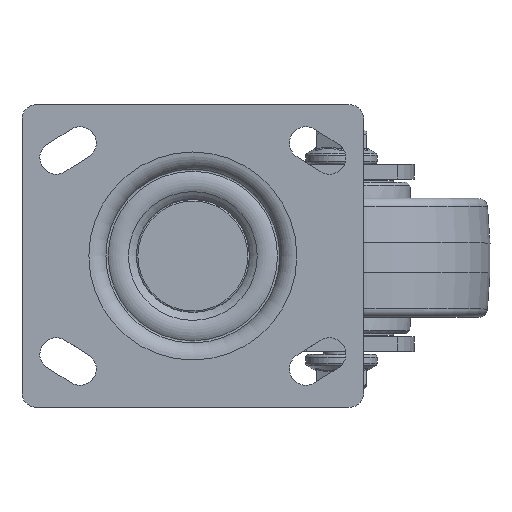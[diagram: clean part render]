
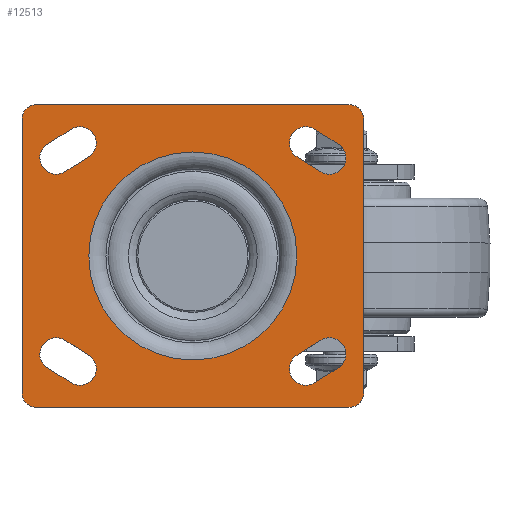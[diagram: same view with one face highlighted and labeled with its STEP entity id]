
A CAD part, top view. The second image highlights one B-rep face of the part: STEP entity #12513.
In plain terms, the highlighted planar face has unit normal (0, 0, 1).
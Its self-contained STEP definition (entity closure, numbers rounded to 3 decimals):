
#11257=CARTESIAN_POINT('',(-96.085,543.205,6.899));
#11258=VERTEX_POINT('',#11257);
#11259=CARTESIAN_POINT('',(-131.085,543.205,6.899));
#11260=DIRECTION('',(0.0,0.0,-1.0));
#11261=DIRECTION('',(1.0,0.0,0.0));
#11262=AXIS2_PLACEMENT_3D('',#11259,#11260,#11261);
#11263=CIRCLE('',#11262,35.);
#11264=EDGE_CURVE('',#11258,#11258,#11263,.T.);
#11636=CARTESIAN_POINT('',(-96.,576.541,6.899));
#11637=VERTEX_POINT('',#11636);
#11644=CARTESIAN_POINT('',(-88.,571.541,6.899));
#11645=VERTEX_POINT('',#11644);
#11646=CARTESIAN_POINT('',(-88.,571.541,6.899));
#11647=DIRECTION('',(-0.848,0.53,0.0));
#11648=VECTOR('',#11647,9.434);
#11649=LINE('',#11646,#11648);
#11650=EDGE_CURVE('',#11645,#11637,#11649,.T.);
#11676=CARTESIAN_POINT('',(-82.17,580.869,6.899));
#11677=VERTEX_POINT('',#11676);
#11678=CARTESIAN_POINT('',(-85.085,576.205,6.899));
#11679=DIRECTION('',(0.0,0.0,-1.0));
#11680=DIRECTION('',(1.0,0.0,0.0));
#11681=AXIS2_PLACEMENT_3D('',#11678,#11679,#11680);
#11682=CIRCLE('',#11681,5.5);
#11683=EDGE_CURVE('',#11677,#11645,#11682,.T.);
#11708=CARTESIAN_POINT('',(-90.17,585.869,6.899));
#11709=VERTEX_POINT('',#11708);
#11710=CARTESIAN_POINT('',(-90.17,585.869,6.899));
#11711=DIRECTION('',(0.848,-0.53,0.0));
#11712=VECTOR('',#11711,9.434);
#11713=LINE('',#11710,#11712);
#11714=EDGE_CURVE('',#11709,#11677,#11713,.T.);
#11738=CARTESIAN_POINT('',(-93.085,581.205,6.899));
#11739=DIRECTION('',(0.0,0.0,-1.0));
#11740=DIRECTION('',(1.0,0.0,0.0));
#11741=AXIS2_PLACEMENT_3D('',#11738,#11739,#11740);
#11742=CIRCLE('',#11741,5.5);
#11743=EDGE_CURVE('',#11637,#11709,#11742,.T.);
#11765=CARTESIAN_POINT('',(-73.585,497.205,6.899));
#11766=VERTEX_POINT('',#11765);
#11773=CARTESIAN_POINT('',(-78.585,492.205,6.899));
#11774=VERTEX_POINT('',#11773);
#11775=CARTESIAN_POINT('',(-78.585,497.205,6.899));
#11776=DIRECTION('',(0.0,0.0,1.0));
#11777=DIRECTION('',(1.0,0.0,0.0));
#11778=AXIS2_PLACEMENT_3D('',#11775,#11776,#11777);
#11779=CIRCLE('',#11778,5.0);
#11780=EDGE_CURVE('',#11774,#11766,#11779,.T.);
#11805=CARTESIAN_POINT('',(-183.585,492.205,6.899));
#11806=VERTEX_POINT('',#11805);
#11807=CARTESIAN_POINT('',(-183.585,492.205,6.899));
#11808=DIRECTION('',(1.0,0.0,0.0));
#11809=VECTOR('',#11808,105.0);
#11810=LINE('',#11807,#11809);
#11811=EDGE_CURVE('',#11806,#11774,#11810,.T.);
#11837=CARTESIAN_POINT('',(-188.585,497.205,6.899));
#11838=VERTEX_POINT('',#11837);
#11839=CARTESIAN_POINT('',(-183.585,497.205,6.899));
#11840=DIRECTION('',(0.0,0.0,1.0));
#11841=DIRECTION('',(1.0,0.0,0.0));
#11842=AXIS2_PLACEMENT_3D('',#11839,#11840,#11841);
#11843=CIRCLE('',#11842,5.0);
#11844=EDGE_CURVE('',#11838,#11806,#11843,.T.);
#11869=CARTESIAN_POINT('',(-188.585,589.205,6.899));
#11870=VERTEX_POINT('',#11869);
#11871=CARTESIAN_POINT('',(-188.585,589.205,6.899));
#11872=DIRECTION('',(0.0,-1.0,0.0));
#11873=VECTOR('',#11872,92.);
#11874=LINE('',#11871,#11873);
#11875=EDGE_CURVE('',#11870,#11838,#11874,.T.);
#11901=CARTESIAN_POINT('',(-183.585,594.205,6.899));
#11902=VERTEX_POINT('',#11901);
#11903=CARTESIAN_POINT('',(-183.585,589.205,6.899));
#11904=DIRECTION('',(0.0,0.0,1.0));
#11905=DIRECTION('',(1.0,0.0,0.0));
#11906=AXIS2_PLACEMENT_3D('',#11903,#11904,#11905);
#11907=CIRCLE('',#11906,5.0);
#11908=EDGE_CURVE('',#11902,#11870,#11907,.T.);
#11933=CARTESIAN_POINT('',(-78.585,594.205,6.899));
#11934=VERTEX_POINT('',#11933);
#11935=CARTESIAN_POINT('',(-78.585,594.205,6.899));
#11936=DIRECTION('',(-1.0,0.0,0.0));
#11937=VECTOR('',#11936,105.0);
#11938=LINE('',#11935,#11937);
#11939=EDGE_CURVE('',#11934,#11902,#11938,.T.);
#11965=CARTESIAN_POINT('',(-73.585,589.205,6.899));
#11966=VERTEX_POINT('',#11965);
#11967=CARTESIAN_POINT('',(-78.585,589.205,6.899));
#11968=DIRECTION('',(0.0,0.0,1.0));
#11969=DIRECTION('',(1.0,0.0,0.0));
#11970=AXIS2_PLACEMENT_3D('',#11967,#11968,#11969);
#11971=CIRCLE('',#11970,5.0);
#11972=EDGE_CURVE('',#11966,#11934,#11971,.T.);
#11995=CARTESIAN_POINT('',(-73.585,497.205,6.899));
#11996=DIRECTION('',(0.0,1.0,0.0));
#11997=VECTOR('',#11996,92.);
#11998=LINE('',#11995,#11997);
#11999=EDGE_CURVE('',#11766,#11966,#11998,.T.);
#12020=CARTESIAN_POINT('',(-166.17,509.869,6.899));
#12021=VERTEX_POINT('',#12020);
#12028=CARTESIAN_POINT('',(-174.17,514.869,6.899));
#12029=VERTEX_POINT('',#12028);
#12030=CARTESIAN_POINT('',(-174.17,514.869,6.899));
#12031=DIRECTION('',(0.848,-0.53,0.0));
#12032=VECTOR('',#12031,9.434);
#12033=LINE('',#12030,#12032);
#12034=EDGE_CURVE('',#12029,#12021,#12033,.T.);
#12060=CARTESIAN_POINT('',(-180.,505.541,6.899));
#12061=VERTEX_POINT('',#12060);
#12062=CARTESIAN_POINT('',(-177.085,510.205,6.899));
#12063=DIRECTION('',(0.0,0.0,-1.0));
#12064=DIRECTION('',(1.0,0.0,0.0));
#12065=AXIS2_PLACEMENT_3D('',#12062,#12063,#12064);
#12066=CIRCLE('',#12065,5.5);
#12067=EDGE_CURVE('',#12061,#12029,#12066,.T.);
#12092=CARTESIAN_POINT('',(-172.,500.541,6.899));
#12093=VERTEX_POINT('',#12092);
#12094=CARTESIAN_POINT('',(-172.,500.541,6.899));
#12095=DIRECTION('',(-0.848,0.53,0.0));
#12096=VECTOR('',#12095,9.434);
#12097=LINE('',#12094,#12096);
#12098=EDGE_CURVE('',#12093,#12061,#12097,.T.);
#12122=CARTESIAN_POINT('',(-169.085,505.205,6.899));
#12123=DIRECTION('',(0.0,0.0,-1.0));
#12124=DIRECTION('',(1.0,0.0,0.0));
#12125=AXIS2_PLACEMENT_3D('',#12122,#12123,#12124);
#12126=CIRCLE('',#12125,5.5);
#12127=EDGE_CURVE('',#12021,#12093,#12126,.T.);
#12148=CARTESIAN_POINT('',(-172.,585.869,6.899));
#12149=VERTEX_POINT('',#12148);
#12156=CARTESIAN_POINT('',(-180.,580.869,6.899));
#12157=VERTEX_POINT('',#12156);
#12158=CARTESIAN_POINT('',(-180.,580.869,6.899));
#12159=DIRECTION('',(0.848,0.53,0.0));
#12160=VECTOR('',#12159,9.434);
#12161=LINE('',#12158,#12160);
#12162=EDGE_CURVE('',#12157,#12149,#12161,.T.);
#12188=CARTESIAN_POINT('',(-174.17,571.541,6.899));
#12189=VERTEX_POINT('',#12188);
#12190=CARTESIAN_POINT('',(-177.085,576.205,6.899));
#12191=DIRECTION('',(0.0,0.0,-1.0));
#12192=DIRECTION('',(1.0,0.0,0.0));
#12193=AXIS2_PLACEMENT_3D('',#12190,#12191,#12192);
#12194=CIRCLE('',#12193,5.5);
#12195=EDGE_CURVE('',#12189,#12157,#12194,.T.);
#12220=CARTESIAN_POINT('',(-166.17,576.541,6.899));
#12221=VERTEX_POINT('',#12220);
#12222=CARTESIAN_POINT('',(-166.17,576.541,6.899));
#12223=DIRECTION('',(-0.848,-0.53,0.0));
#12224=VECTOR('',#12223,9.434);
#12225=LINE('',#12222,#12224);
#12226=EDGE_CURVE('',#12221,#12189,#12225,.T.);
#12250=CARTESIAN_POINT('',(-169.085,581.205,6.899));
#12251=DIRECTION('',(0.0,0.0,-1.0));
#12252=DIRECTION('',(1.0,0.0,0.0));
#12253=AXIS2_PLACEMENT_3D('',#12250,#12251,#12252);
#12254=CIRCLE('',#12253,5.5);
#12255=EDGE_CURVE('',#12149,#12221,#12254,.T.);
#12341=CARTESIAN_POINT('',(-90.17,500.541,6.899));
#12342=VERTEX_POINT('',#12341);
#12349=CARTESIAN_POINT('',(-82.17,505.541,6.899));
#12350=VERTEX_POINT('',#12349);
#12351=CARTESIAN_POINT('',(-82.17,505.541,6.899));
#12352=DIRECTION('',(-0.848,-0.53,0.0));
#12353=VECTOR('',#12352,9.434);
#12354=LINE('',#12351,#12353);
#12355=EDGE_CURVE('',#12350,#12342,#12354,.T.);
#12381=CARTESIAN_POINT('',(-88.,514.869,6.899));
#12382=VERTEX_POINT('',#12381);
#12383=CARTESIAN_POINT('',(-85.085,510.205,6.899));
#12384=DIRECTION('',(0.0,0.0,-1.0));
#12385=DIRECTION('',(1.0,0.0,0.0));
#12386=AXIS2_PLACEMENT_3D('',#12383,#12384,#12385);
#12387=CIRCLE('',#12386,5.5);
#12388=EDGE_CURVE('',#12382,#12350,#12387,.T.);
#12413=CARTESIAN_POINT('',(-96.,509.869,6.899));
#12414=VERTEX_POINT('',#12413);
#12415=CARTESIAN_POINT('',(-96.,509.869,6.899));
#12416=DIRECTION('',(0.848,0.53,0.0));
#12417=VECTOR('',#12416,9.434);
#12418=LINE('',#12415,#12417);
#12419=EDGE_CURVE('',#12414,#12382,#12418,.T.);
#12443=CARTESIAN_POINT('',(-93.085,505.205,6.899));
#12444=DIRECTION('',(0.0,0.0,-1.0));
#12445=DIRECTION('',(1.0,0.0,0.0));
#12446=AXIS2_PLACEMENT_3D('',#12443,#12444,#12445);
#12447=CIRCLE('',#12446,5.5);
#12448=EDGE_CURVE('',#12342,#12414,#12447,.T.);
#12471=CARTESIAN_POINT('',(-63.585,543.205,6.899));
#12472=DIRECTION('',(0.0,0.0,1.0));
#12473=DIRECTION('',(1.0,0.0,0.0));
#12474=AXIS2_PLACEMENT_3D('',#12471,#12472,#12473);
#12475=PLANE('',#12474);
#12476=ORIENTED_EDGE('',*,*,#11908,.T.);
#12477=ORIENTED_EDGE('',*,*,#11875,.T.);
#12478=ORIENTED_EDGE('',*,*,#11844,.T.);
#12479=ORIENTED_EDGE('',*,*,#11811,.T.);
#12480=ORIENTED_EDGE('',*,*,#11780,.T.);
#12481=ORIENTED_EDGE('',*,*,#11999,.T.);
#12482=ORIENTED_EDGE('',*,*,#11972,.T.);
#12483=ORIENTED_EDGE('',*,*,#11939,.T.);
#12484=EDGE_LOOP('',(#12476,#12477,#12478,#12479,#12480,#12481,#12482,#12483));
#12485=FACE_OUTER_BOUND('',#12484,.T.);
#12486=ORIENTED_EDGE('',*,*,#11714,.T.);
#12487=ORIENTED_EDGE('',*,*,#11683,.T.);
#12488=ORIENTED_EDGE('',*,*,#11650,.T.);
#12489=ORIENTED_EDGE('',*,*,#11743,.T.);
#12490=EDGE_LOOP('',(#12486,#12487,#12488,#12489));
#12491=FACE_BOUND('',#12490,.T.);
#12492=ORIENTED_EDGE('',*,*,#12098,.T.);
#12493=ORIENTED_EDGE('',*,*,#12067,.T.);
#12494=ORIENTED_EDGE('',*,*,#12034,.T.);
#12495=ORIENTED_EDGE('',*,*,#12127,.T.);
#12496=EDGE_LOOP('',(#12492,#12493,#12494,#12495));
#12497=FACE_BOUND('',#12496,.T.);
#12498=ORIENTED_EDGE('',*,*,#12226,.T.);
#12499=ORIENTED_EDGE('',*,*,#12195,.T.);
#12500=ORIENTED_EDGE('',*,*,#12162,.T.);
#12501=ORIENTED_EDGE('',*,*,#12255,.T.);
#12502=EDGE_LOOP('',(#12498,#12499,#12500,#12501));
#12503=FACE_BOUND('',#12502,.T.);
#12504=ORIENTED_EDGE('',*,*,#12419,.T.);
#12505=ORIENTED_EDGE('',*,*,#12388,.T.);
#12506=ORIENTED_EDGE('',*,*,#12355,.T.);
#12507=ORIENTED_EDGE('',*,*,#12448,.T.);
#12508=EDGE_LOOP('',(#12504,#12505,#12506,#12507));
#12509=FACE_BOUND('',#12508,.T.);
#12510=ORIENTED_EDGE('',*,*,#11264,.T.);
#12511=EDGE_LOOP('',(#12510));
#12512=FACE_BOUND('',#12511,.T.);
#12513=ADVANCED_FACE('',(#12485,#12491,#12497,#12503,#12509,#12512),#12475,.T.);
